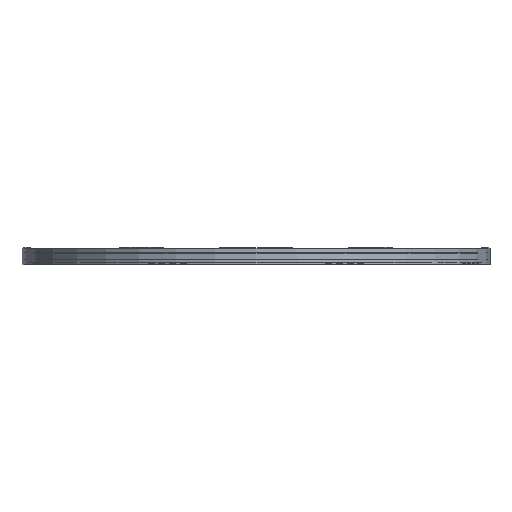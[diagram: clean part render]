
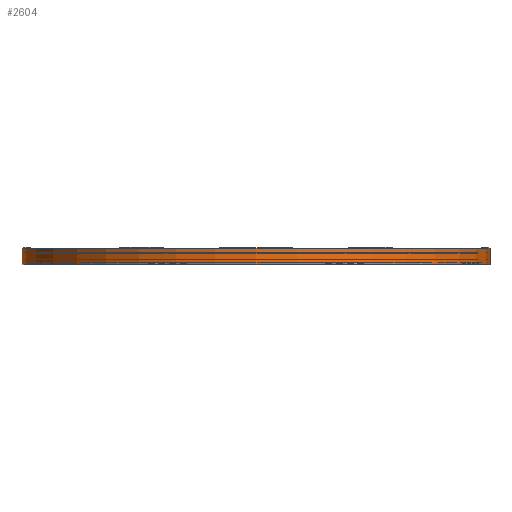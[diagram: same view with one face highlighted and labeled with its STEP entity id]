
A CAD part, front view. The second image highlights one B-rep face of the part: STEP entity #2604.
In plain terms, the highlighted cylindrical face has radius 763.5 mm (diameter 1527 mm), a full revolution.
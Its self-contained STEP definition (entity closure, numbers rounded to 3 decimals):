
#663=FACE_BOUND('',#3855,.T.);
#664=FACE_BOUND('',#3856,.T.);
#1028=CYLINDRICAL_SURFACE('',#10177,763.5);
#2604=ADVANCED_FACE('',(#663,#664),#1028,.T.);
#3855=EDGE_LOOP('',(#6354));
#3856=EDGE_LOOP('',(#6355));
#6354=ORIENTED_EDGE('',*,*,#8659,.F.);
#6355=ORIENTED_EDGE('',*,*,#8658,.T.);
#7368=VERTEX_POINT('',#19088);
#7369=VERTEX_POINT('',#19091);
#8658=EDGE_CURVE('',#7368,#7368,#9273,.T.);
#8659=EDGE_CURVE('',#7369,#7369,#9274,.T.);
#9273=CIRCLE('',#10174,763.5);
#9274=CIRCLE('',#10176,763.5);
#10174=AXIS2_PLACEMENT_3D('',#19087,#12333,#12334);
#10176=AXIS2_PLACEMENT_3D('',#19090,#12337,#12338);
#10177=AXIS2_PLACEMENT_3D('',#19092,#12339,#12340);
#12333=DIRECTION('',(0.,0.,1.));
#12334=DIRECTION('',(1.,0.,0.));
#12337=DIRECTION('',(0.,0.,1.));
#12338=DIRECTION('',(1.,0.,0.));
#12339=DIRECTION('',(0.,0.,1.));
#12340=DIRECTION('',(-1.,0.,0.));
#19087=CARTESIAN_POINT('',(0.,-750.,0.5));
#19088=CARTESIAN_POINT('',(763.5,-750.,0.5));
#19090=CARTESIAN_POINT('',(0.,-750.,53.5));
#19091=CARTESIAN_POINT('',(763.5,-750.,53.5));
#19092=CARTESIAN_POINT('',(0.,-750.,0.5));
